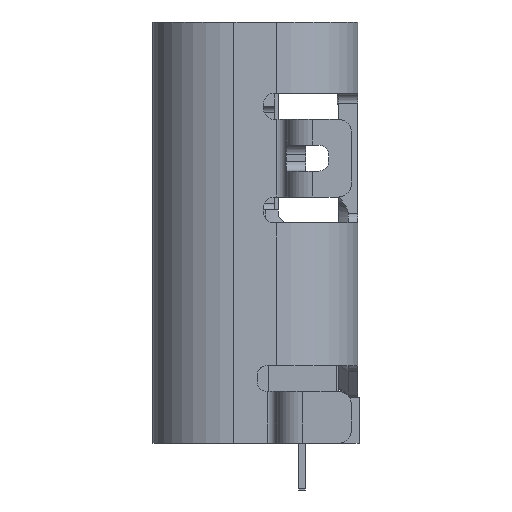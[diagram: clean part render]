
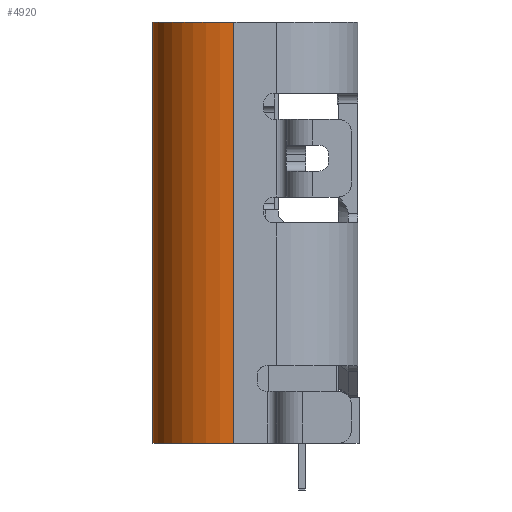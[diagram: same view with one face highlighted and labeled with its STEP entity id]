
A CAD part, left-side view. The second image highlights one B-rep face of the part: STEP entity #4920.
In plain terms, the highlighted cylindrical face has radius 1.25 mm (diameter 2.5 mm), a partial arc.
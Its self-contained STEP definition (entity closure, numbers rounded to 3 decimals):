
#722=CYLINDRICAL_SURFACE('',#14752,1.25);
#1104=FACE_OUTER_BOUND('',#6178,.T.);
#2047=LINE('',#21130,#3593);
#2155=LINE('',#21596,#3701);
#3593=VECTOR('',#16917,1.);
#3701=VECTOR('',#17221,1.);
#4920=ADVANCED_FACE('',(#1104),#722,.T.);
#5603=CIRCLE('',#14652,1.25);
#5644=CIRCLE('',#14751,1.25);
#6178=EDGE_LOOP('',(#8567,#8568,#8569,#8570));
#8567=ORIENTED_EDGE('',*,*,#13056,.T.);
#8568=ORIENTED_EDGE('',*,*,#13057,.F.);
#8569=ORIENTED_EDGE('',*,*,#12878,.T.);
#8570=ORIENTED_EDGE('',*,*,#12883,.T.);
#11275=VERTEX_POINT('',#21119);
#11276=VERTEX_POINT('',#21121);
#11279=VERTEX_POINT('',#21129);
#11382=VERTEX_POINT('',#21595);
#12878=EDGE_CURVE('',#11276,#11275,#5603,.T.);
#12883=EDGE_CURVE('',#11275,#11279,#2047,.T.);
#13056=EDGE_CURVE('',#11279,#11382,#5644,.T.);
#13057=EDGE_CURVE('',#11276,#11382,#2155,.T.);
#14652=AXIS2_PLACEMENT_3D('',#21120,#16909,#16910);
#14751=AXIS2_PLACEMENT_3D('',#21594,#17219,#17220);
#14752=AXIS2_PLACEMENT_3D('',#21597,#17222,#17223);
#16909=DIRECTION('',(0.,0.,1.));
#16910=DIRECTION('',(1.,0.,0.));
#16917=DIRECTION('',(0.,0.,1.));
#17219=DIRECTION('',(0.,0.,-1.));
#17220=DIRECTION('',(1.,0.,0.));
#17221=DIRECTION('',(0.,0.,1.));
#17222=DIRECTION('',(0.,0.,1.));
#17223=DIRECTION('',(-1.,0.,0.));
#21119=CARTESIAN_POINT('',(-29.47,0.33,-8.25));
#21120=CARTESIAN_POINT('',(-28.22,0.33,-8.25));
#21121=CARTESIAN_POINT('',(-28.22,1.58,-8.25));
#21129=CARTESIAN_POINT('',(-29.47,0.33,-1.75));
#21130=CARTESIAN_POINT('',(-29.47,0.33,98.6));
#21594=CARTESIAN_POINT('',(-28.22,0.33,-1.75));
#21595=CARTESIAN_POINT('',(-28.22,1.58,-1.75));
#21596=CARTESIAN_POINT('',(-28.22,1.58,-9.15));
#21597=CARTESIAN_POINT('',(-28.22,0.33,98.6));
